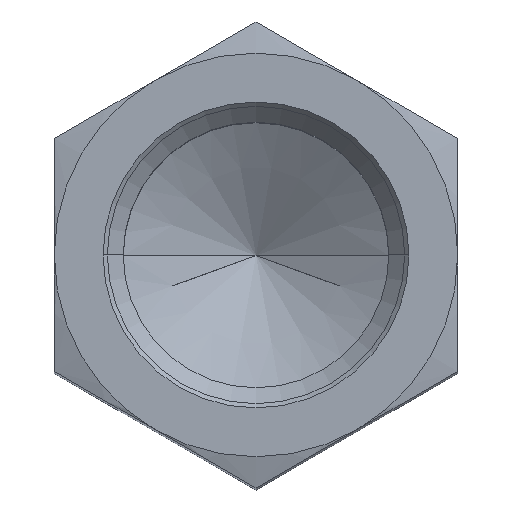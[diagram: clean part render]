
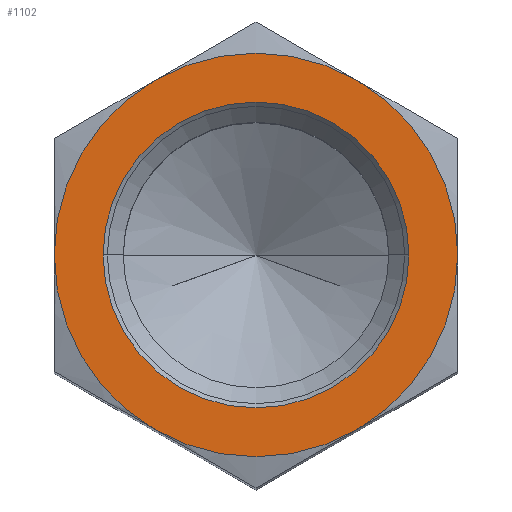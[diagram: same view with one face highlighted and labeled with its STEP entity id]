
A CAD part, top view. The second image highlights one B-rep face of the part: STEP entity #1102.
In plain terms, the highlighted planar face has unit normal (0, 0, 1).
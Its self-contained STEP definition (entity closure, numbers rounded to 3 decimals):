
#481=CARTESIAN_POINT('',(0.,0.,58.));
#482=DIRECTION('',(0.,0.,-1.));
#483=DIRECTION('',(1.,0.,0.));
#484=AXIS2_PLACEMENT_3D('',#481,#482,#483);
#489=CARTESIAN_POINT('',(0.,0.,58.));
#490=DIRECTION('',(0.,0.,-1.));
#491=DIRECTION('',(0.5,-0.866,0.));
#492=AXIS2_PLACEMENT_3D('',#489,#490,#491);
#497=CARTESIAN_POINT('',(0.,0.,58.));
#498=DIRECTION('',(0.,0.,-1.));
#499=DIRECTION('',(-0.5,-0.866,0.));
#500=AXIS2_PLACEMENT_3D('',#497,#498,#499);
#505=CARTESIAN_POINT('',(0.,0.,58.));
#506=DIRECTION('',(0.,0.,-1.));
#507=DIRECTION('',(-1.,0.,0.));
#508=AXIS2_PLACEMENT_3D('',#505,#506,#507);
#513=CARTESIAN_POINT('',(0.,0.,58.));
#514=DIRECTION('',(0.,0.,-1.));
#515=DIRECTION('',(-0.5,0.866,0.));
#516=AXIS2_PLACEMENT_3D('',#513,#514,#515);
#521=CARTESIAN_POINT('',(0.,0.,58.));
#522=DIRECTION('',(0.,0.,-1.));
#523=DIRECTION('',(0.5,0.866,0.));
#524=AXIS2_PLACEMENT_3D('',#521,#522,#523);
#529=CARTESIAN_POINT('',(0.,0.,58.));
#530=DIRECTION('',(0.,0.,1.));
#531=DIRECTION('',(-1.,0.,0.));
#532=AXIS2_PLACEMENT_3D('',#529,#530,#531);
#537=CARTESIAN_POINT('',(0.,0.,58.));
#538=DIRECTION('',(0.,0.,1.));
#539=DIRECTION('',(1.,0.,0.));
#540=AXIS2_PLACEMENT_3D('',#537,#538,#539);
#768=CARTESIAN_POINT('',(9.5,0.,58.));
#769=CARTESIAN_POINT('',(4.75,-8.227,58.));
#770=VERTEX_POINT('',#768);
#771=VERTEX_POINT('',#769);
#772=CARTESIAN_POINT('',(-4.75,-8.227,58.));
#773=VERTEX_POINT('',#772);
#774=CARTESIAN_POINT('',(-9.5,0.,58.));
#775=VERTEX_POINT('',#774);
#776=CARTESIAN_POINT('',(-4.75,8.227,58.));
#777=VERTEX_POINT('',#776);
#778=CARTESIAN_POINT('',(4.75,8.227,58.));
#779=VERTEX_POINT('',#778);
#808=CARTESIAN_POINT('',(-7.2,0.,58.));
#809=CARTESIAN_POINT('',(7.2,0.,58.));
#810=VERTEX_POINT('',#808);
#811=VERTEX_POINT('',#809);
#1080=CARTESIAN_POINT('',(0.,0.,58.));
#1081=DIRECTION('',(0.,0.,1.));
#1082=DIRECTION('',(1.,0.,0.));
#1083=AXIS2_PLACEMENT_3D('',#1080,#1081,#1082);
#1084=PLANE('',#1083);
#1086=ORIENTED_EDGE('',*,*,#1085,.T.);
#1088=ORIENTED_EDGE('',*,*,#1087,.T.);
#1090=ORIENTED_EDGE('',*,*,#1089,.T.);
#1091=ORIENTED_EDGE('',*,*,#1051,.T.);
#1092=ORIENTED_EDGE('',*,*,#1063,.T.);
#1093=ORIENTED_EDGE('',*,*,#1075,.T.);
#1094=EDGE_LOOP('',(#1086,#1088,#1090,#1091,#1092,#1093));
#1095=FACE_OUTER_BOUND('',#1094,.F.);
#1097=ORIENTED_EDGE('',*,*,#1096,.T.);
#1099=ORIENTED_EDGE('',*,*,#1098,.T.);
#1100=EDGE_LOOP('',(#1097,#1099));
#1101=FACE_BOUND('',#1100,.F.);
#485=CIRCLE('',#484,9.5);
#493=CIRCLE('',#492,9.5);
#501=CIRCLE('',#500,9.5);
#509=CIRCLE('',#508,9.5);
#517=CIRCLE('',#516,9.5);
#525=CIRCLE('',#524,9.5);
#533=CIRCLE('',#532,7.2);
#541=CIRCLE('',#540,7.2);
#1051=EDGE_CURVE('',#775,#777,#509,.T.);
#1063=EDGE_CURVE('',#777,#779,#517,.T.);
#1075=EDGE_CURVE('',#779,#770,#525,.T.);
#1085=EDGE_CURVE('',#770,#771,#485,.T.);
#1087=EDGE_CURVE('',#771,#773,#493,.T.);
#1089=EDGE_CURVE('',#773,#775,#501,.T.);
#1096=EDGE_CURVE('',#810,#811,#533,.T.);
#1098=EDGE_CURVE('',#811,#810,#541,.T.);
#1102=ADVANCED_FACE('',(#1095,#1101),#1084,.T.);
